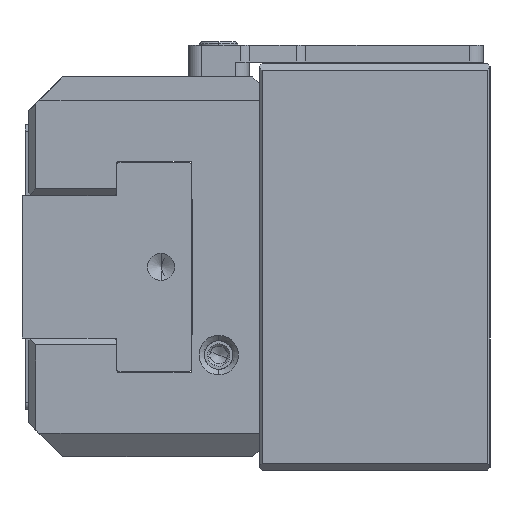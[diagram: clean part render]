
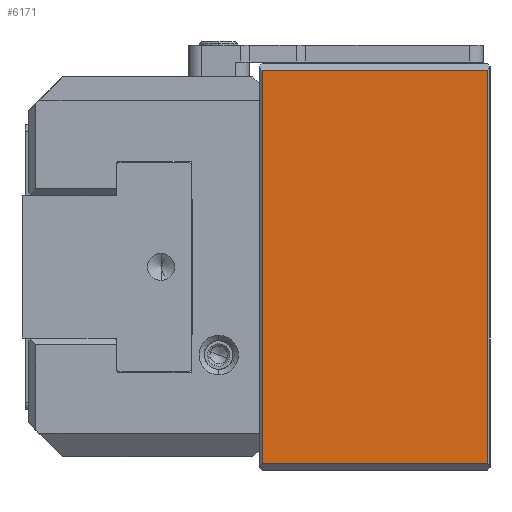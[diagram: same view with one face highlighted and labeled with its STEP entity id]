
A CAD part, left-side view. The second image highlights one B-rep face of the part: STEP entity #6171.
In plain terms, the highlighted planar face has unit normal (-1, 0, 0).
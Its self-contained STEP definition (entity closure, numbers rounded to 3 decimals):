
#22 = EDGE_CURVE ( 'NONE', #17474, #15871, #14832, .T. ) ;
#964 = ORIENTED_EDGE ( 'NONE', *, *, #23560, .T. ) ;
#4346 = VERTEX_POINT ( 'NONE', #47721 ) ;
#6171 = ADVANCED_FACE ( 'NONE', ( #12455 ), #30061, .T. ) ;
#7649 = VERTEX_POINT ( 'NONE', #50980 ) ;
#9899 = VECTOR ( 'NONE', #28094, 1000. ) ;
#10234 = LINE ( 'NONE', #49564, #9899 ) ;
#10560 = LINE ( 'NONE', #11710, #14620 ) ;
#11530 = CARTESIAN_POINT ( 'NONE',  ( -50., -34., 29. ) ) ;
#11710 = CARTESIAN_POINT ( 'NONE',  ( -50., -33.6, 29. ) ) ;
#12455 = FACE_OUTER_BOUND ( 'NONE', #30710, .T. ) ;
#14620 = VECTOR ( 'NONE', #37527, 1000. ) ;
#14832 = LINE ( 'NONE', #15137, #39680 ) ;
#15137 = CARTESIAN_POINT ( 'NONE',  ( -50., -34., -29. ) ) ;
#15871 = VERTEX_POINT ( 'NONE', #50321 ) ;
#17474 = VERTEX_POINT ( 'NONE', #24977 ) ;
#20293 = DIRECTION ( 'NONE',  ( 0., 1., 0. ) ) ;
#23560 = EDGE_CURVE ( 'NONE', #7649, #15871, #10234, .T. ) ;
#24977 = CARTESIAN_POINT ( 'NONE',  ( -50., -33.6, -29. ) ) ;
#26800 = ORIENTED_EDGE ( 'NONE', *, *, #36166, .T. ) ;
#26853 = ORIENTED_EDGE ( 'NONE', *, *, #44283, .T. ) ;
#28094 = DIRECTION ( 'NONE',  ( 0., 0., -1. ) ) ;
#29096 = LINE ( 'NONE', #11530, #57123 ) ;
#30061 = PLANE ( 'NONE',  #34132 ) ;
#30710 = EDGE_LOOP ( 'NONE', ( #54479, #26853, #26800, #964 ) ) ;
#34132 = AXIS2_PLACEMENT_3D ( 'NONE', #40039, #35885, #49141 ) ;
#35885 = DIRECTION ( 'NONE',  ( -1., 0., 0. ) ) ;
#36166 = EDGE_CURVE ( 'NONE', #4346, #7649, #29096, .T. ) ;
#37527 = DIRECTION ( 'NONE',  ( 0., 0., 1. ) ) ;
#39680 = VECTOR ( 'NONE', #55698, 1000. ) ;
#40039 = CARTESIAN_POINT ( 'NONE',  ( -50., -34., 29. ) ) ;
#44283 = EDGE_CURVE ( 'NONE', #17474, #4346, #10560, .T. ) ;
#47721 = CARTESIAN_POINT ( 'NONE',  ( -50., -33.6, 29. ) ) ;
#49141 = DIRECTION ( 'NONE',  ( 0., 0., 1. ) ) ;
#49564 = CARTESIAN_POINT ( 'NONE',  ( -50., -0.4, -29. ) ) ;
#50321 = CARTESIAN_POINT ( 'NONE',  ( -50., -0.4, -29. ) ) ;
#50980 = CARTESIAN_POINT ( 'NONE',  ( -50., -0.4, 29. ) ) ;
#54479 = ORIENTED_EDGE ( 'NONE', *, *, #22, .F. ) ;
#55698 = DIRECTION ( 'NONE',  ( 0., 1., 0. ) ) ;
#57123 = VECTOR ( 'NONE', #20293, 1000. ) ;
